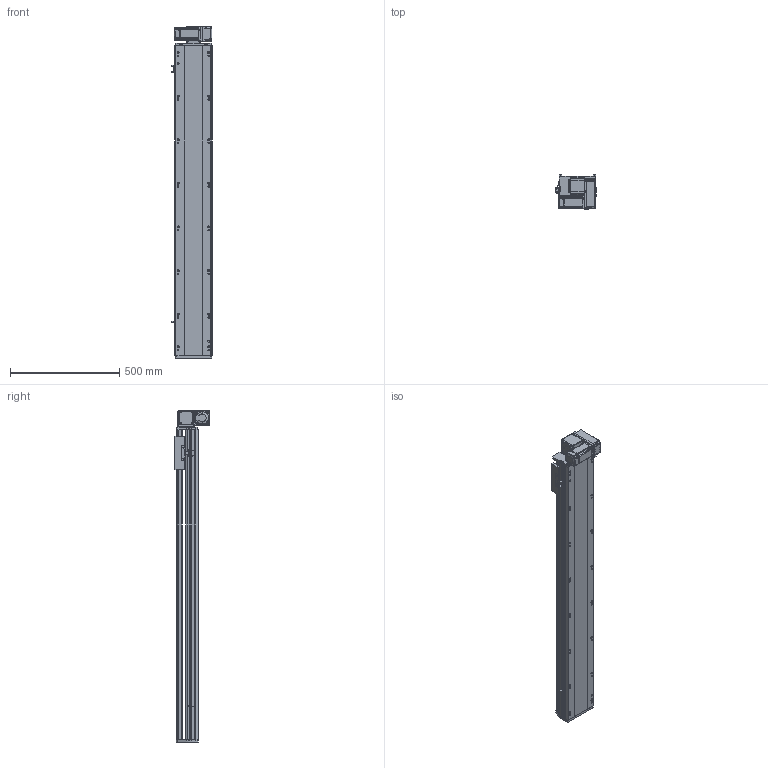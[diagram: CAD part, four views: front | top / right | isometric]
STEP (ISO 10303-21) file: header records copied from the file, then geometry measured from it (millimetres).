
FILE_DESCRIPTION (( 'STEP AP214' ), '1' );
FILE_NAME ('RTB17S-XX-1150-RM-M40-C4.STEP', '2025-12-11T08:17:20', ( '' ), ( '' ), 'SwSTEP 2.0', 'SolidWorks 2018', '' );
FILE_SCHEMA (( 'AUTOMOTIVE_DESIGN' ));
Length unit declared in the file: millimetre
Products named in the file (14): RTB17S-L-007奻裔^RTB17S-XX-XX-RM-M40-C4; RTB17S-XX-1150-RM-M40-C4; RTB14-L-018P^RTB17S-RM-々湍釱蚾饜-400W_RTB17S-XX-XX-RM-M40-C4; RTB14-L-017P^RTB17S-RM-々湍釱蚾饜-400W_RTB17S-XX-XX-RM-M40-C4; RTB14-L-005P--轴承塑胶压盖^RTB17S-RM-皮带座装配-400W_RTB17S-XX-XX-RM-M40-C4; RTB17S-RM-々湍釱蚾饜-400W^RTB17S-XX-XX-RM-M40-C4; RTB14-L-008-M20--萇儂啣^RTB17S-RM-々湍釱蚾饜-400W_RTB17S-XX-XX-RM-M40-C4; RTB17S-L-001耜醱啣^RTB17S-XX-XX-RM-M40-C4; 400W侜督萇儂^RTB17S-XX-XX-RM-M40-C4; RTB17S-L-004佪裝蹟譫蟀諉釱^RTB17S-XX-XX-RM-M40-C4; RTB17-R-011菁釱^RTB17S-XX-XX-RM-M40-C4; RTH13-BL-012覜茼え俋离^RTB17S-XX-XX-RM-M40-C4; OMRON EE-SX672 传感器^RTB17S-XX-XX-RM-M40-C4; RTB17S-L-014-T20--々湍釱^RTB17S-RM-々湍釱蚾饜-400W_RTB17S-XX-XX-RM-M40-C4
Assembly tree (16 placements, depth 3):
  RTB17S-XX-1150-RM-M40-C4
    RTB17-R-011菁釱^RTB17S-XX-XX-RM-M40-C4
    RTB17S-L-007奻裔^RTB17S-XX-XX-RM-M40-C4
    OMRON EE-SX672 传感器^RTB17S-XX-XX-RM-M40-C4  x3
    RTB17S-L-001耜醱啣^RTB17S-XX-XX-RM-M40-C4
    400W侜督萇儂^RTB17S-XX-XX-RM-M40-C4
    RTB17S-L-004佪裝蹟譫蟀諉釱^RTB17S-XX-XX-RM-M40-C4
    RTH13-BL-012覜茼え俋离^RTB17S-XX-XX-RM-M40-C4
    RTB17S-RM-々湍釱蚾饜-400W^RTB17S-XX-XX-RM-M40-C4
      RTB17S-L-014-T20--々湍釱^RTB17S-RM-々湍釱蚾饜-400W_RTB17S-XX-XX-RM-M40-C4
      RTB14-L-005P--轴承塑胶压盖^RTB17S-RM-皮带座装配-400W_RTB17S-XX-XX-RM-M40-C4
      RTB14-L-008-M20--萇儂啣^RTB17S-RM-々湍釱蚾饜-400W_RTB17S-XX-XX-RM-M40-C4
      RTB14-L-017P^RTB17S-RM-々湍釱蚾饜-400W_RTB17S-XX-XX-RM-M40-C4  x2
      RTB14-L-018P^RTB17S-RM-々湍釱蚾饜-400W_RTB17S-XX-XX-RM-M40-C4
Bounding box: 183.5 x 156.5 x 1522.5 mm (x, y, z)
Volume: 13597602.2 mm3; surface area: 1631458.5 mm2
Topology: 15 solids, 15 shells, 2221 faces, 6141 edges, 4005 vertices
Faces by surface type: plane 1070, cylinder 703, bspline 301, cone 139, torus 8
Entity records: 63401 total; most frequent: CARTESIAN_POINT 17746, ORIENTED_EDGE 9126, DIRECTION 8486, EDGE_CURVE 4563, VERTEX_POINT 2993, AXIS2_PLACEMENT_3D 2923, LINE 2640, VECTOR 2640
